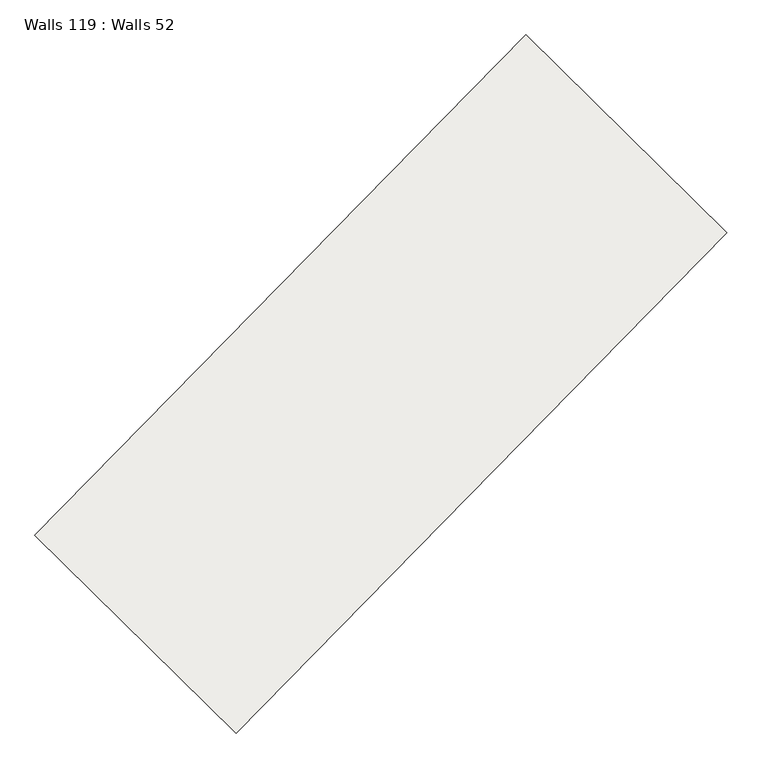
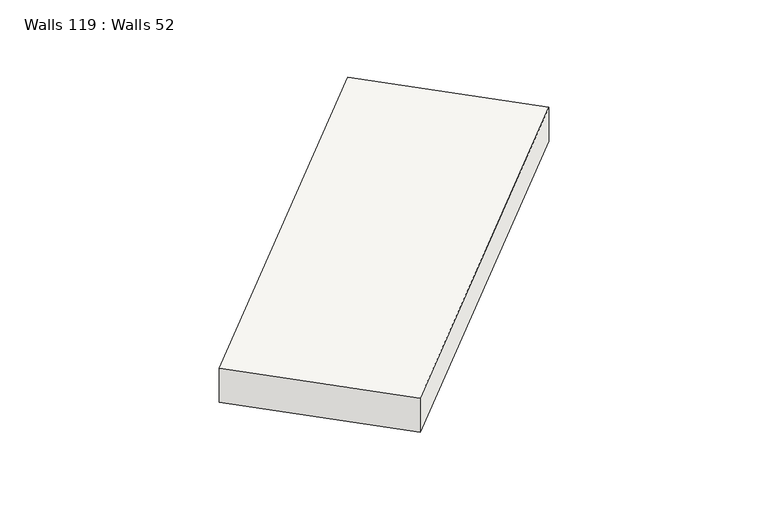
"""IFC4 building model written with IfcOpenShell, lengths in millimetres: slab geometry, Walls 119 : Walls 52."""

from ifc_helpers import new_model, si_unit, frame, origin, place, context, project, spatial, polyline, outline, extrude, source, transform, mapped, element, save


def walls_119_walls_52_5e08007b(model_context):
    return source(origin(), model_context, "Body", "SweptSolid", [
        extrude(outline(polyline([(-350.0, 0.0), (350.0, 0.0), (260.0, -8699.9999996), (-440.0, -8699.9999996), (-350.0, 0.0)])), frame((-67051.2490043, -227528.6587975, 637470.0), z_axis=(-0.7137361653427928, 0.700414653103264, 0.0), x_axis=(0.0, 0.0, 1.0)), (0.0, 0.0, 1.0), 3499.999995),
    ])


if __name__ == "__main__":
    model = new_model("IFC4")
    model_context = context("Model", 3, world=origin())
    ifc_project = project(units=[si_unit("LENGTHUNIT", "METRE", prefix="MILLI")], contexts=[model_context])
    site = spatial("IfcSite", under=ifc_project)
    building = spatial("IfcBuilding", under=site)
    placement = place(None, origin())
    walls_119_walls_52_shape = walls_119_walls_52_5e08007b(model_context)
    element("IfcSlab", 1, ObjectType="Walls 119 : Walls 52", at=placement, inside=building, context=model_context, shape_type="MappedRepresentation", body=[
        mapped(walls_119_walls_52_shape, transform((0.0, 0.0, 0.0), x_axis=(1.0, 0.0, 0.0), y_axis=(0.0, 1.0, 0.0), z_axis=(0.0, 0.0, 1.0))),
    ])
    save(model, "model.ifc")
